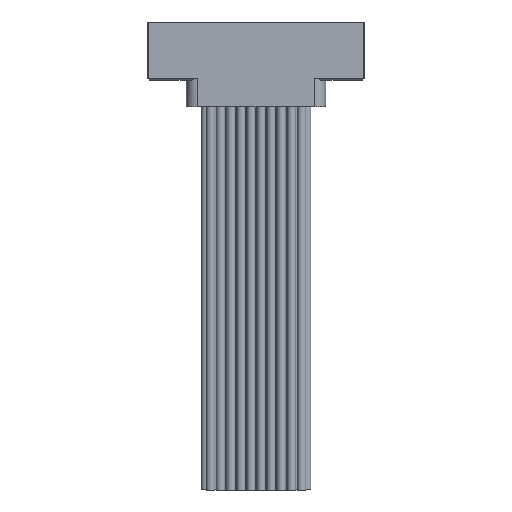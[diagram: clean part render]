
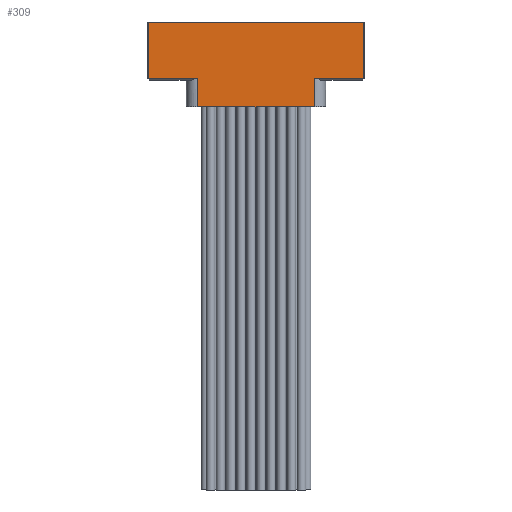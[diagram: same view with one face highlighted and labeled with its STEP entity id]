
A CAD part, front view. The second image highlights one B-rep face of the part: STEP entity #309.
In plain terms, the highlighted planar face has unit normal (0, -1, 0).
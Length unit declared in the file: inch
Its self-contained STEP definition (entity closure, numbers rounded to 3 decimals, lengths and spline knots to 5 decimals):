
#309 = ADVANCED_FACE ( 'NONE', ( #11139 ), #13728, .T. ) ;
#2144 = ORIENTED_EDGE ( 'NONE', *, *, #6179, .T. ) ;
#2145 = ORIENTED_EDGE ( 'NONE', *, *, #6153, .T. ) ;
#2146 = ORIENTED_EDGE ( 'NONE', *, *, #6150, .T. ) ;
#2147 = ORIENTED_EDGE ( 'NONE', *, *, #6147, .T. ) ;
#2148 = ORIENTED_EDGE ( 'NONE', *, *, #6144, .T. ) ;
#2149 = ORIENTED_EDGE ( 'NONE', *, *, #6141, .T. ) ;
#2150 = ORIENTED_EDGE ( 'NONE', *, *, #6178, .F. ) ;
#2151 = ORIENTED_EDGE ( 'NONE', *, *, #6180, .T. ) ;
#6141 = EDGE_CURVE ( 'NONE', #10737, #10741, #20943, .T. ) ;
#6144 = EDGE_CURVE ( 'NONE', #10740, #10737, #20934, .T. ) ;
#6147 = EDGE_CURVE ( 'NONE', #10742, #10740, #20949, .T. ) ;
#6150 = EDGE_CURVE ( 'NONE', #10749, #10742, #20953, .T. ) ;
#6153 = EDGE_CURVE ( 'NONE', #10748, #10749, #20958, .T. ) ;
#6178 = EDGE_CURVE ( 'NONE', #10758, #10741, #20992, .T. ) ;
#6179 = EDGE_CURVE ( 'NONE', #10760, #10748, #20993, .T. ) ;
#6180 = EDGE_CURVE ( 'NONE', #10758, #10760, #20995, .T. ) ;
#10191 = EDGE_LOOP ( 'NONE', ( #2144, #2145, #2146, #2147, #2148, #2149, #2150, #2151 ) ) ;
#10737 = VERTEX_POINT ( 'NONE', #29287 ) ;
#10740 = VERTEX_POINT ( 'NONE', #29290 ) ;
#10741 = VERTEX_POINT ( 'NONE', #29291 ) ;
#10742 = VERTEX_POINT ( 'NONE', #29292 ) ;
#10748 = VERTEX_POINT ( 'NONE', #29298 ) ;
#10749 = VERTEX_POINT ( 'NONE', #29299 ) ;
#10758 = VERTEX_POINT ( 'NONE', #29308 ) ;
#10760 = VERTEX_POINT ( 'NONE', #29310 ) ;
#11139 = FACE_OUTER_BOUND ( 'NONE', #10191, .T. ) ;
#11818 = AXIS2_PLACEMENT_3D ( 'NONE', #13714, #13730, #13731 ) ;
#13714 = CARTESIAN_POINT ( 'NONE',  ( 0.5375, -0.13, 0.235 ) ) ;
#13728 = PLANE ( 'NONE',  #11818 ) ;
#13730 = DIRECTION ( 'NONE',  ( 0., -1., 0. ) ) ;
#13731 = DIRECTION ( 'NONE',  ( 0., 0., 1. ) ) ;
#20934 = LINE ( 'NONE', #22157, #20946 ) ;
#20943 = LINE ( 'NONE', #22149, #20945 ) ;
#20945 = VECTOR ( 'NONE', #22151, 39.37008 ) ;
#20946 = VECTOR ( 'NONE', #22159, 39.37008 ) ;
#20949 = LINE ( 'NONE', #22166, #20952 ) ;
#20952 = VECTOR ( 'NONE', #22167, 39.37008 ) ;
#20953 = LINE ( 'NONE', #22173, #20954 ) ;
#20954 = VECTOR ( 'NONE', #22176, 39.37008 ) ;
#20958 = LINE ( 'NONE', #22183, #20960 ) ;
#20960 = VECTOR ( 'NONE', #22184, 39.37008 ) ;
#20992 = LINE ( 'NONE', #22243, #20994 ) ;
#20993 = LINE ( 'NONE', #22251, #20996 ) ;
#20994 = VECTOR ( 'NONE', #22237, 39.37008 ) ;
#20995 = LINE ( 'NONE', #22253, #20998 ) ;
#20996 = VECTOR ( 'NONE', #22252, 39.37008 ) ;
#20998 = VECTOR ( 'NONE', #22254, 39.37008 ) ;
#22149 = CARTESIAN_POINT ( 'NONE',  ( 0.5375, -0.13, -0.043 ) ) ;
#22151 = DIRECTION ( 'NONE',  ( 1., 0., 0. ) ) ;
#22157 = CARTESIAN_POINT ( 'NONE',  ( -0.5325, -0.13, -0.053 ) ) ;
#22159 = DIRECTION ( 'NONE',  ( 0., 0., -1. ) ) ;
#22166 = CARTESIAN_POINT ( 'NONE',  ( 0.5375, -0.13, 0.235 ) ) ;
#22167 = DIRECTION ( 'NONE',  ( -1., 0., 0. ) ) ;
#22173 = CARTESIAN_POINT ( 'NONE',  ( 0.5325, -0.13, 0.235 ) ) ;
#22176 = DIRECTION ( 'NONE',  ( 0., 0., 1. ) ) ;
#22183 = CARTESIAN_POINT ( 'NONE',  ( 0.5375, -0.13, -0.043 ) ) ;
#22184 = DIRECTION ( 'NONE',  ( 1., 0., 0. ) ) ;
#22237 = DIRECTION ( 'NONE',  ( 0., 0., 1. ) ) ;
#22243 = CARTESIAN_POINT ( 'NONE',  ( -0.289, -0.13, -1.34036 ) ) ;
#22251 = CARTESIAN_POINT ( 'NONE',  ( 0.289, -0.13, -1.34036 ) ) ;
#22252 = DIRECTION ( 'NONE',  ( 0., 0., 1. ) ) ;
#22253 = CARTESIAN_POINT ( 'NONE',  ( 0.289, -0.13, -0.184 ) ) ;
#22254 = DIRECTION ( 'NONE',  ( 1., 0., 0. ) ) ;
#29287 = CARTESIAN_POINT ( 'NONE',  ( -0.5325, -0.13, -0.043 ) ) ;
#29290 = CARTESIAN_POINT ( 'NONE',  ( -0.5325, -0.13, 0.235 ) ) ;
#29291 = CARTESIAN_POINT ( 'NONE',  ( -0.289, -0.13, -0.043 ) ) ;
#29292 = CARTESIAN_POINT ( 'NONE',  ( 0.5325, -0.13, 0.235 ) ) ;
#29298 = CARTESIAN_POINT ( 'NONE',  ( 0.289, -0.13, -0.043 ) ) ;
#29299 = CARTESIAN_POINT ( 'NONE',  ( 0.5325, -0.13, -0.043 ) ) ;
#29308 = CARTESIAN_POINT ( 'NONE',  ( -0.289, -0.13, -0.184 ) ) ;
#29310 = CARTESIAN_POINT ( 'NONE',  ( 0.289, -0.13, -0.184 ) ) ;
